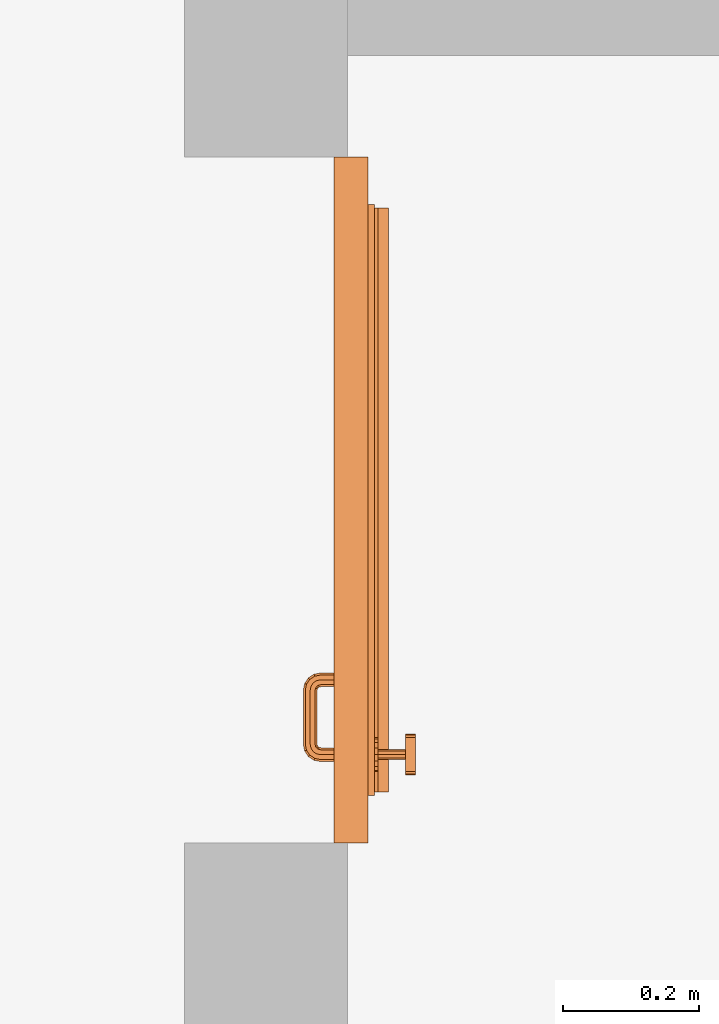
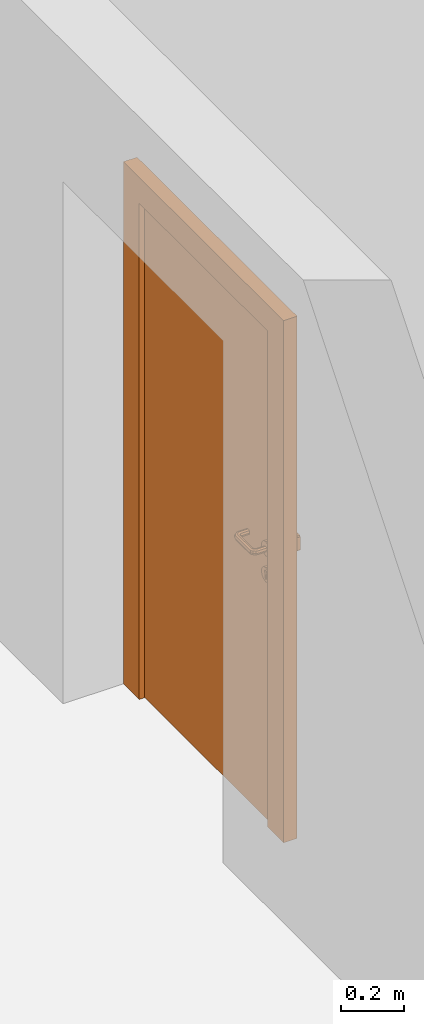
# One storey, part 4 of 5: 1 proxy.
"""IFC4 building model written with IfcOpenShell, lengths in metres."""

from ifc_helpers import new_model, entity, si_unit, converted_unit, derived_unit, direction, frame, origin_with_axes, place, context, subcontext, project, spatial, triangles, type_object, element, save


model = new_model("IFC4")

# Units and contexts
model_context = context("Model", 3, precision=1e-05, world=origin_with_axes(), true_north=direction((-0.526213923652, 0.850352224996)))
body_context = subcontext(model_context, "Body", "Model", "MODEL_VIEW")
ifc_project = project(units=[si_unit("LENGTHUNIT", "METRE"), si_unit("AREAUNIT", "SQUARE_METRE"), si_unit("VOLUMEUNIT", "CUBIC_METRE"), converted_unit("PLANEANGLEUNIT", "DEGREE", entity("IfcPlaneAngleMeasure", 0.0174532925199), si_unit("PLANEANGLEUNIT", "RADIAN"), dimensions=[0, 0, 0, 0, 0, 0, 0]), si_unit("SOLIDANGLEUNIT", "STERADIAN"), converted_unit("TIMEUNIT", "Year", entity("IfcTimeMeasure", 31556926.0), si_unit("TIMEUNIT", "SECOND"), dimensions=[0, 0, 1, 0, 0, 0, 0]), si_unit("MASSUNIT", "GRAM", prefix="KILO"), si_unit("THERMODYNAMICTEMPERATUREUNIT", "DEGREE_CELSIUS"), si_unit("LUMINOUSINTENSITYUNIT", "LUMEN"), si_unit("ENERGYUNIT", "JOULE", prefix="MEGA"), derived_unit("THERMALCONDUCTANCEUNIT", [(si_unit("POWERUNIT", "WATT"), 1), (si_unit("LENGTHUNIT", "METRE"), -1), (si_unit("THERMODYNAMICTEMPERATUREUNIT", "KELVIN"), -1)]), derived_unit("SPECIFICHEATCAPACITYUNIT", [(si_unit("ENERGYUNIT", "JOULE"), 1), (si_unit("MASSUNIT", "GRAM", prefix="KILO"), -1), (si_unit("THERMODYNAMICTEMPERATUREUNIT", "KELVIN"), -1)]), derived_unit("MASSDENSITYUNIT", [(si_unit("MASSUNIT", "GRAM", prefix="KILO"), 1), (si_unit("VOLUMEUNIT", "CUBIC_METRE"), -1)])], contexts=[model_context])

# Site, building, storey
site_placement = place(None, origin_with_axes())
site = spatial("IfcSite", under=ifc_project, at=site_placement, Name="Gelände", CompositionType="ELEMENT")
building_placement = place(site_placement, origin_with_axes())
building = spatial("IfcBuilding", under=site, at=building_placement, Name="Haus vom Nikolaus", CompositionType="ELEMENT")
storey_placement = place(building_placement, frame((0.0, 0.0, -2.8), z_axis=(0.0, 0.0, 1.0), x_axis=(1.0, 0.0, 0.0)))
storey = spatial("IfcBuildingStorey", under=building, at=storey_placement, Name="-1. Geschoss", CompositionType="ELEMENT", Elevation=-2.8)

# Proxy
building_element_proxy_type = type_object("IfcBuildingElementProxyType", Name="Eingangstür 01 22", PredefinedType="NOTDEFINED")
proxy_placement = place(storey_placement, frame((11.2399975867, 3.43733205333, 0.0), z_axis=(0.0, 0.0, 1.0), x_axis=(0.0, -1.0, 0.0)))
element("IfcBuildingElementProxy", 1, at=proxy_placement, inside=storey, type_object=building_element_proxy_type, Name="Tür-002", PredefinedType="NOTDEFINED", context=body_context, shape_type="Tessellation", body=[
    triangles([(0.0, 0.0, 2.01), (0.0, -0.02, 0.0), (0.0, -0.02, 2.01), (0.0, 0.0, 0.0), (0.1, -0.02, 1.91), (0.3749, -0.02, 1.91), (0.1, -0.02, 0.0), (0.5049, -0.02, 1.91), (1.01, -0.02, 2.01), (0.91, -0.02, 1.91), (1.01, -0.02, 0.0), (0.91, -0.02, 0.0), (1.01, 0.0, 2.01), (0.1, 0.0, 1.91), (0.1, 0.0, 0.0), (1.01, 0.0, 0.0), (0.91, 0.0, 1.91), (0.91, 0.0, 0.0), (0.5049, 0.0, 1.91), (0.3749, 0.0, 1.91)], [[1, 2, 3], [1, 4, 2], [3, 2, 5], [6, 3, 5], [5, 2, 7], [8, 3, 6], [3, 8, 9], [9, 8, 10], [11, 9, 10], [11, 10, 12], [13, 3, 9], [13, 1, 3], [14, 15, 4], [16, 17, 13], [17, 16, 18], [13, 19, 1], [19, 13, 17], [20, 1, 19], [14, 1, 20], [1, 14, 4], [4, 7, 2], [4, 15, 7], [15, 5, 7], [15, 14, 5], [20, 5, 14], [5, 20, 6], [20, 8, 6], [20, 19, 8], [19, 10, 8], [19, 17, 10], [17, 12, 10], [17, 18, 12], [18, 11, 12], [18, 16, 11], [16, 9, 11], [16, 13, 9]], closed=True),
    triangles([(0.0, 0.03, 2.01), (0.0, 0.0, 0.0), (0.0, 0.0, 2.01), (0.0, 0.03, 0.0), (0.07, 0.0, 1.94), (0.4049, 0.0, 1.94), (0.07, 0.0, 0.0), (0.4749, 0.0, 1.94), (1.01, 0.0, 2.01), (0.94, 0.0, 1.94), (1.01, 0.0, 0.0), (0.94, 0.0, 0.0), (1.01, 0.03, 2.01), (0.07, 0.03, 1.94), (0.07, 0.03, 0.0), (1.01, 0.03, 0.0), (0.94, 0.03, 1.94), (0.94, 0.03, 0.0), (0.4749, 0.03, 1.94), (0.4049, 0.03, 1.94)], [[1, 2, 3], [1, 4, 2], [3, 2, 5], [6, 3, 5], [5, 2, 7], [8, 3, 6], [3, 8, 9], [9, 8, 10], [11, 9, 10], [11, 10, 12], [13, 3, 9], [13, 1, 3], [14, 15, 4], [16, 17, 13], [17, 16, 18], [13, 19, 1], [19, 13, 17], [20, 1, 19], [14, 1, 20], [1, 14, 4], [4, 7, 2], [4, 15, 7], [15, 5, 7], [15, 14, 5], [14, 6, 5], [14, 20, 6], [20, 8, 6], [20, 19, 8], [19, 10, 8], [19, 17, 10], [17, 12, 10], [17, 18, 12], [18, 11, 12], [18, 16, 11], [16, 9, 11], [16, 13, 9]], closed=True),
    triangles([(0.94, 0.04, 1.94), (0.07, 0.04, 0.0), (0.07, 0.04, 1.94), (0.94, 0.04, 0.0), (0.07, 0.0, 1.94), (0.07, 0.0, 0.0), (0.94, 0.0, 1.94), (0.94, 0.0, 0.0)], [[1, 2, 3], [1, 4, 2], [5, 2, 6], [5, 3, 2], [7, 3, 5], [7, 1, 3], [8, 1, 7], [8, 4, 1], [6, 4, 8], [6, 2, 4], [5, 8, 7], [5, 6, 8]], closed=True),
    triangles([(0.935, 0.06, 0.05), (0.075, 0.06, 0.0), (0.075, 0.06, 0.05), (0.935, 0.06, 0.0), (0.075, 0.04, 0.07), (0.075, 0.045, 0.07), (0.075, 0.04, 0.0), (0.935, 0.045, 0.07), (0.935, 0.04, 0.0), (0.935, 0.04, 0.07)], [[1, 2, 3], [1, 4, 2], [3, 5, 6], [7, 3, 2], [5, 3, 7], [8, 3, 6], [8, 1, 3], [9, 1, 10], [10, 1, 8], [1, 9, 4], [4, 7, 2], [4, 9, 7], [9, 5, 7], [9, 10, 5], [10, 6, 5], [10, 8, 6]], closed=True),
    triangles([(0.88, -0.0099, 1.077), (0.8935, -0.01, 1.0733826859), (0.8935, -0.0099, 1.0733826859), (0.88, -0.01, 1.077), (0.903382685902, -0.01, 1.0635), (0.903382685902, -0.0099, 1.0635), (0.88, -9.99999999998e-05, 1.077), (0.8935, -9.99999999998e-05, 1.0733826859), (0.8665, -0.0099, 1.0733826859), (0.8665, -0.01, 1.0733826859), (0.856617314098, -0.01, 1.0365), (0.8935, -0.01, 1.0266173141), (0.856617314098, -0.01, 1.0635), (0.853, -0.01, 1.05), (0.88, -0.01, 1.023), (0.903382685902, -0.01, 1.0365), (0.8665, -0.01, 1.0266173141), (0.907, -0.01, 1.05), (0.907, -0.0099, 1.05), (0.903382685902, -9.99999999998e-05, 1.0635), (0.88, 0.0, 1.077), (0.8935, 0.0, 1.0733826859), (0.8665, -9.99999999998e-05, 1.0733826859), (0.856617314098, -0.0099, 1.0635), (0.853, -0.0099, 1.05), (0.856617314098, -0.0099, 1.0365), (0.8665, -0.0099, 1.0266173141), (0.88, -0.0099, 1.023), (0.8935, -0.0099, 1.0266173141), (0.903382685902, -0.0099, 1.0365), (0.907, -9.99999999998e-05, 1.05), (0.903382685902, 0.0, 1.0635), (0.856617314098, 0.0, 1.0365), (0.903382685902, 0.0, 1.0365), (0.88, 0.0, 1.023), (0.907, 0.0, 1.05), (0.8665, 0.0, 1.0733826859), (0.856617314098, 0.0, 1.0635), (0.8665, 0.0, 1.0266173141), (0.8935, 0.0, 1.0266173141), (0.853, 0.0, 1.05), (0.856617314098, -9.99999999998e-05, 1.0635), (0.853, -9.99999999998e-05, 1.05), (0.856617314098, -9.99999999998e-05, 1.0365), (0.8665, -9.99999999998e-05, 1.0266173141), (0.88, -9.99999999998e-05, 1.023), (0.8935, -9.99999999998e-05, 1.0266173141), (0.903382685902, -9.99999999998e-05, 1.0365)], [[1, 2, 3], [1, 4, 2], [3, 5, 6], [3, 2, 5], [7, 3, 8], [7, 1, 3], [9, 4, 1], [9, 10, 4], [5, 11, 12], [11, 13, 14], [5, 13, 11], [12, 11, 15], [5, 12, 16], [15, 11, 17], [13, 5, 10], [5, 16, 18], [2, 4, 5], [10, 5, 4], [6, 18, 19], [6, 5, 18], [8, 6, 20], [8, 3, 6], [21, 8, 22], [21, 7, 8], [23, 1, 7], [23, 9, 1], [24, 10, 9], [24, 13, 10], [25, 13, 24], [25, 14, 13], [26, 14, 25], [26, 11, 14], [27, 11, 26], [27, 17, 11], [28, 17, 27], [28, 15, 17], [29, 15, 28], [29, 12, 15], [30, 12, 29], [30, 16, 12], [19, 16, 30], [19, 18, 16], [20, 19, 31], [20, 6, 19], [22, 20, 32], [22, 8, 20], [33, 34, 35], [34, 32, 36], [37, 22, 32], [37, 34, 38], [33, 35, 39], [35, 34, 40], [38, 34, 33], [38, 33, 41], [22, 37, 21], [34, 37, 32], [37, 7, 21], [37, 23, 7], [24, 23, 42], [23, 24, 9], [43, 24, 42], [43, 25, 24], [44, 25, 43], [44, 26, 25], [45, 26, 44], [45, 27, 26], [46, 27, 45], [46, 28, 27], [47, 28, 46], [47, 29, 28], [30, 47, 48], [47, 30, 29], [31, 30, 48], [31, 19, 30], [32, 31, 36], [32, 20, 31], [36, 48, 34], [36, 31, 48], [34, 47, 40], [34, 48, 47], [40, 46, 35], [40, 47, 46], [35, 45, 39], [35, 46, 45], [39, 44, 33], [39, 45, 44], [33, 43, 41], [33, 44, 43], [41, 42, 38], [41, 43, 42], [38, 23, 37], [38, 42, 23]], closed=True),
    triangles([(0.875, -0.01, 0.9544), (0.872532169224, -0.01, 0.959692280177), (0.875, -0.01, 0.952886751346), (0.856703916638, -0.01, 0.96345), (0.873279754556, -0.01, 0.961639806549), (0.86655, -0.01, 0.973296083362), (0.874624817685, -0.009, 0.965143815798), (0.874624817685, -0.01, 0.965143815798), (0.873279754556, -0.009, 0.961639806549), (0.872532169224, -0.009, 0.959692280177), (0.88, -0.01, 0.9769), (0.88, -0.01, 0.967425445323), (0.856617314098, -0.01, 0.9635), (0.8665, -0.01, 0.973382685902), (0.8531, -0.01, 0.95), (0.875, -0.01, 0.95), (0.875, -0.009, 0.95), (0.875, -0.009, 0.947113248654), (0.875, -0.009, 0.952886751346), (0.875, -0.01, 0.947113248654), (0.875, -0.009, 0.941339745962), (0.875, -0.01, 0.941339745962), (0.875, -0.009, 0.9375), (0.875, -0.01, 0.9375), (0.875, -0.009, 0.9544), (0.857569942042, -0.009, 0.96295), (0.86705, -0.009, 0.972430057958), (0.88, -0.009, 0.9759), (0.88, -0.009, 0.967425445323), (0.885375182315, -0.01, 0.965143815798), (0.89345, -0.01, 0.973296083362), (0.886720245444, -0.01, 0.961639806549), (0.88, -0.01, 0.977), (0.853, -0.01, 0.95), (0.856617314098, -0.0099, 0.9635), (0.8665, -0.0099, 0.973382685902), (0.856703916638, -0.01, 0.93655), (0.86655, -0.01, 0.926703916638), (0.876464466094, -0.01, 0.933964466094), (0.88, -0.01, 0.9231), (0.88, -0.01, 0.9325), (0.876464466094, -0.009, 0.933964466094), (0.86705, -0.009, 0.927569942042), (0.88, -0.009, 0.9241), (0.88, -0.009, 0.9325), (0.857569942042, -0.009, 0.93705), (0.8541, -0.009, 0.95), (0.857483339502, -0.009, 0.963), (0.867, -0.009, 0.972516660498), (0.88, -0.009, 0.976), (0.89295, -0.009, 0.972430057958), (0.886720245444, -0.009, 0.961639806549), (0.885375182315, -0.009, 0.965143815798), (0.887467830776, -0.01, 0.959692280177), (0.887467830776, -0.009, 0.959692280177), (0.903296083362, -0.01, 0.96345), (0.885, -0.01, 0.952886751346), (0.885, -0.01, 0.9544), (0.8935, -0.01, 0.973382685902), (0.88, -0.0099, 0.977), (0.856617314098, -0.01, 0.9365), (0.853, -0.0099, 0.95), (0.856617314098, -9.99999999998e-05, 0.9635), (0.8665, -9.99999999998e-05, 0.973382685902), (0.8665, -0.01, 0.926617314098), (0.88, -0.01, 0.923), (0.883535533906, -0.01, 0.933964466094), (0.89345, -0.01, 0.926703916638), (0.885, -0.01, 0.9375), (0.885, -0.01, 0.941339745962), (0.88, -0.009, 0.924), (0.867, -0.009, 0.927483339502), (0.885, -0.009, 0.941339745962), (0.89295, -0.009, 0.927569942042), (0.885, -0.009, 0.9375), (0.883535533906, -0.009, 0.933964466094), (0.857483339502, -0.009, 0.937), (0.854, -0.009, 0.95), (0.867, -0.0089, 0.972516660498), (0.857483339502, -0.0089, 0.963), (0.88, -0.0089, 0.976), (0.893, -0.009, 0.972516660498), (0.885, -0.009, 0.9544), (0.885, -0.009, 0.952886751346), (0.902430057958, -0.009, 0.96295), (0.885, -0.01, 0.95), (0.885, -0.009, 0.95), (0.885, -0.01, 0.947113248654), (0.885, -0.009, 0.947113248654), (0.9069, -0.01, 0.95), (0.903382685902, -0.01, 0.9635), (0.8935, -0.0099, 0.973382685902), (0.88, -9.99999999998e-05, 0.977), (0.856617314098, -0.0099, 0.9365), (0.853, -9.99999999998e-05, 0.95), (0.856617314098, 0.0, 0.9635), (0.8665, 0.0, 0.973382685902), (0.8665, -0.0099, 0.926617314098), (0.8935, -0.01, 0.926617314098), (0.88, -0.0099, 0.923), (0.903296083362, -0.01, 0.93655), (0.893, -0.009, 0.927483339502), (0.867, -0.0089, 0.927483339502), (0.88, -0.0089, 0.924), (0.902430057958, -0.009, 0.93705), (0.857483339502, -0.0089, 0.937), (0.854, -0.0089, 0.95), (0.867, -9.99999999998e-05, 0.972516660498), (0.857483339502, -9.99999999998e-05, 0.963), (0.88, -9.99999999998e-05, 0.976), (0.893, -0.0089, 0.972516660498), (0.902516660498, -0.009, 0.963), (0.9059, -0.009, 0.95), (0.907, -0.01, 0.95), (0.903382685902, -0.0099, 0.9635), (0.8935, -9.99999999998e-05, 0.973382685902), (0.88, 0.0, 0.977), (0.856617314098, -9.99999999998e-05, 0.9365), (0.853, 0.0, 0.95), (0.86655, 0.0, 0.973296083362), (0.856703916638, 0.0, 0.96345), (0.8665, -9.99999999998e-05, 0.926617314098), (0.903382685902, -0.01, 0.9365), (0.8935, -0.0099, 0.926617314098), (0.88, -9.99999999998e-05, 0.923), (0.902516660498, -0.009, 0.937), (0.893, -0.0089, 0.927483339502), (0.867, -9.99999999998e-05, 0.927483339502), (0.88, -9.99999999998e-05, 0.924), (0.857483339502, -9.99999999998e-05, 0.937), (0.854, -9.99999999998e-05, 0.95), (0.867, 0.0, 0.972516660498), (0.857483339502, 0.0, 0.963), (0.88, 0.0, 0.976), (0.893, -9.99999999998e-05, 0.972516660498), (0.902516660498, -0.0089, 0.963), (0.906, -0.009, 0.95), (0.907, -0.0099, 0.95), (0.903382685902, -9.99999999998e-05, 0.9635), (0.8935, 0.0, 0.973382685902), (0.88, 0.0, 0.9769), (0.856617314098, 0.0, 0.9365), (0.8531, 0.0, 0.95), (0.857396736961, 0.0, 0.96305), (0.86695, 0.0, 0.972603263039), (0.8665, 0.0, 0.926617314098), (0.903382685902, -0.0099, 0.9365), (0.8935, -9.99999999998e-05, 0.926617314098), (0.88, 0.0, 0.923), (0.902516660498, -0.0089, 0.937), (0.893, -9.99999999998e-05, 0.927483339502), (0.867, 0.0, 0.927483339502), (0.88, 0.0, 0.924), (0.857483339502, 0.0, 0.937), (0.854, 0.0, 0.95), (0.88, 0.0, 0.9761), (0.893, 0.0, 0.972516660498), (0.902516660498, -9.99999999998e-05, 0.963), (0.906, -0.0089, 0.95), (0.907, -9.99999999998e-05, 0.95), (0.903382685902, 0.0, 0.9635), (0.89345, 0.0, 0.973296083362), (0.856703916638, 0.0, 0.93655), (0.8539, 0.0, 0.95), (0.86655, 0.0, 0.926703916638), (0.903382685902, -9.99999999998e-05, 0.9365), (0.8935, 0.0, 0.926617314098), (0.88, 0.0, 0.9231), (0.902516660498, -9.99999999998e-05, 0.937), (0.893, 0.0, 0.927483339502), (0.88, 0.0, 0.9239), (0.86695, 0.0, 0.927396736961), (0.857396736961, 0.0, 0.93695), (0.89305, 0.0, 0.972603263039), (0.902516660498, 0.0, 0.963), (0.906, -9.99999999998e-05, 0.95), (0.907, 0.0, 0.95), (0.903296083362, 0.0, 0.96345), (0.903382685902, 0.0, 0.9365), (0.89345, 0.0, 0.926703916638), (0.902516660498, 0.0, 0.937), (0.89305, 0.0, 0.927396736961), (0.902603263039, 0.0, 0.96305), (0.906, 0.0, 0.95), (0.9069, 0.0, 0.95), (0.903296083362, 0.0, 0.93655), (0.902603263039, 0.0, 0.93695), (0.9061, 0.0, 0.95)], [[1, 2, 3], [4, 5, 6], [5, 4, 2], [3, 2, 4], [5, 7, 8], [9, 2, 10], [7, 5, 9], [9, 5, 2], [6, 5, 8], [11, 6, 8], [11, 8, 12], [6, 13, 4], [6, 14, 13], [15, 3, 4], [3, 15, 16], [17, 16, 18], [19, 3, 17], [18, 20, 21], [21, 22, 23], [23, 22, 24], [20, 18, 16], [22, 21, 20], [16, 17, 3], [3, 19, 1], [25, 1, 19], [10, 1, 25], [10, 2, 1], [26, 9, 10], [19, 26, 10], [19, 10, 25], [9, 26, 27], [28, 29, 7], [28, 7, 27], [27, 7, 9], [29, 8, 7], [29, 12, 8], [11, 12, 30], [31, 30, 32], [11, 30, 31], [11, 14, 6], [11, 33, 14], [4, 34, 15], [4, 13, 34], [14, 35, 13], [14, 36, 35], [37, 20, 15], [15, 20, 16], [38, 22, 37], [37, 22, 20], [22, 38, 24], [39, 40, 41], [40, 39, 38], [39, 24, 38], [42, 24, 39], [42, 23, 24], [42, 43, 23], [21, 23, 43], [43, 42, 44], [42, 45, 44], [46, 21, 43], [21, 46, 18], [47, 18, 46], [18, 47, 17], [26, 19, 47], [47, 19, 17], [48, 49, 26], [27, 26, 49], [28, 49, 50], [49, 28, 27], [51, 52, 53], [28, 51, 53], [28, 53, 29], [53, 12, 29], [53, 30, 12], [32, 30, 52], [54, 52, 55], [52, 30, 53], [32, 52, 54], [56, 32, 54], [57, 56, 54], [57, 54, 58], [32, 56, 31], [59, 11, 31], [11, 59, 33], [33, 36, 14], [33, 60, 36], [15, 61, 37], [15, 34, 61], [13, 62, 34], [13, 35, 62], [36, 63, 35], [36, 64, 63], [37, 65, 38], [37, 61, 65], [38, 66, 40], [38, 65, 66], [67, 68, 69], [70, 69, 68], [68, 67, 40], [67, 41, 40], [45, 39, 41], [45, 42, 39], [71, 72, 44], [43, 44, 72], [73, 74, 75], [76, 44, 45], [44, 76, 74], [76, 75, 74], [72, 77, 43], [46, 43, 77], [77, 78, 46], [47, 46, 78], [78, 48, 47], [26, 47, 48], [79, 48, 80], [79, 49, 48], [81, 49, 79], [81, 50, 49], [50, 82, 28], [51, 28, 82], [83, 55, 84], [85, 52, 51], [52, 85, 55], [84, 55, 85], [83, 54, 55], [83, 58, 54], [86, 87, 88], [57, 84, 86], [88, 89, 70], [70, 73, 69], [69, 73, 75], [89, 88, 87], [73, 70, 89], [87, 86, 84], [84, 57, 83], [58, 83, 57], [56, 57, 90], [90, 57, 86], [91, 31, 56], [31, 91, 59], [59, 60, 33], [59, 92, 60], [60, 64, 36], [60, 93, 64], [34, 94, 61], [34, 62, 94], [35, 95, 62], [35, 63, 95], [64, 96, 63], [64, 97, 96], [61, 98, 65], [61, 94, 98], [40, 99, 68], [40, 66, 99], [65, 100, 66], [65, 98, 100], [101, 70, 68], [70, 101, 88], [75, 67, 69], [75, 76, 67], [76, 41, 67], [76, 45, 41], [102, 71, 74], [44, 74, 71], [103, 71, 104], [103, 72, 71], [74, 73, 105], [105, 73, 89], [106, 72, 103], [106, 77, 72], [107, 77, 106], [107, 78, 77], [80, 78, 107], [80, 48, 78], [108, 80, 109], [108, 79, 80], [110, 79, 108], [110, 81, 79], [111, 50, 81], [111, 82, 50], [85, 82, 112], [82, 85, 51], [113, 84, 85], [84, 113, 87], [105, 89, 113], [113, 89, 87], [90, 88, 101], [88, 90, 86], [114, 56, 90], [56, 114, 91], [91, 92, 59], [91, 115, 92], [92, 93, 60], [92, 116, 93], [93, 97, 64], [93, 117, 97], [62, 118, 94], [62, 95, 118], [63, 119, 95], [63, 96, 119], [120, 96, 97], [96, 120, 121], [94, 122, 98], [94, 118, 122], [99, 101, 68], [101, 99, 123], [66, 124, 99], [66, 100, 124], [98, 125, 100], [98, 122, 125], [74, 126, 102], [126, 74, 105], [104, 102, 127], [104, 71, 102], [128, 104, 129], [128, 103, 104], [130, 103, 128], [130, 106, 103], [131, 106, 130], [131, 107, 106], [80, 131, 109], [131, 80, 107], [132, 109, 133], [132, 108, 109], [134, 108, 132], [134, 110, 108], [135, 81, 110], [135, 111, 81], [136, 82, 111], [136, 112, 82], [113, 112, 137], [112, 113, 85], [105, 137, 126], [137, 105, 113], [123, 90, 101], [90, 123, 114], [114, 115, 91], [114, 138, 115], [115, 116, 92], [115, 139, 116], [116, 117, 93], [116, 140, 117], [141, 97, 117], [97, 141, 120], [95, 142, 118], [95, 119, 142], [121, 119, 96], [119, 121, 143], [121, 120, 144], [145, 144, 120], [118, 146, 122], [118, 142, 146], [99, 147, 123], [99, 124, 147], [100, 148, 124], [100, 125, 148], [122, 149, 125], [122, 146, 149], [127, 126, 150], [127, 102, 126], [129, 127, 151], [129, 104, 127], [152, 129, 153], [152, 128, 129], [154, 128, 152], [154, 130, 128], [155, 130, 154], [155, 131, 130], [133, 131, 155], [133, 109, 131], [144, 145, 133], [132, 133, 145], [145, 156, 132], [134, 132, 156], [157, 110, 134], [157, 135, 110], [136, 135, 158], [135, 136, 111], [159, 112, 136], [159, 137, 112], [150, 137, 159], [150, 126, 137], [123, 138, 114], [123, 147, 138], [138, 139, 115], [138, 160, 139], [139, 140, 116], [139, 161, 140], [117, 140, 141], [162, 141, 140], [120, 141, 145], [156, 145, 141], [143, 142, 119], [142, 143, 163], [144, 143, 121], [143, 144, 164], [163, 146, 142], [146, 163, 165], [124, 166, 147], [124, 148, 166], [125, 167, 148], [125, 149, 167], [165, 149, 146], [149, 165, 168], [151, 150, 169], [151, 127, 150], [153, 151, 170], [153, 129, 151], [171, 172, 153], [152, 153, 172], [172, 173, 152], [154, 152, 173], [173, 164, 154], [155, 154, 164], [164, 144, 155], [133, 155, 144], [156, 174, 134], [157, 134, 174], [175, 135, 157], [175, 158, 135], [176, 136, 158], [176, 159, 136], [150, 176, 169], [176, 150, 159], [147, 160, 138], [147, 166, 160], [160, 161, 139], [160, 177, 161], [140, 161, 162], [178, 162, 161], [174, 141, 162], [141, 174, 156], [163, 143, 173], [164, 173, 143], [165, 163, 172], [173, 172, 163], [148, 179, 166], [148, 167, 179], [168, 167, 149], [167, 168, 180], [168, 165, 171], [172, 171, 165], [170, 169, 181], [170, 151, 169], [153, 182, 171], [182, 153, 170], [175, 174, 183], [174, 175, 157], [184, 158, 175], [184, 176, 158], [181, 176, 184], [181, 169, 176], [166, 177, 160], [166, 179, 177], [161, 177, 178], [185, 178, 177], [183, 162, 178], [162, 183, 174], [179, 167, 186], [180, 186, 167], [180, 168, 182], [171, 182, 168], [187, 182, 181], [170, 181, 182], [184, 183, 188], [183, 184, 175], [181, 188, 187], [188, 181, 184], [177, 179, 185], [186, 185, 179], [178, 185, 183], [188, 183, 185], [186, 180, 187], [182, 187, 180], [187, 185, 186], [185, 187, 188]], closed=True),
    triangles([(0.887071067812, -0.040696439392, 1.04292893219), (0.89, -0.01, 1.05), (0.89, -0.0409849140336, 1.05), (0.887071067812, -0.01, 1.04292893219), (0.887071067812, -0.040696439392, 1.05707106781), (0.887071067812, -0.01, 1.05707106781), (0.885518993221, -0.0484992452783, 1.04292893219), (0.888277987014, -0.0496420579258, 1.05), (0.88, -0.04, 1.04), (0.88, -0.01, 1.04), (0.88, -0.04, 1.06), (0.88, -0.01, 1.06), (0.885518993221, -0.0484992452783, 1.05707106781), (0.882816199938, -0.0578161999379, 1.05), (0.880704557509, -0.0557045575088, 1.04292893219), (0.878858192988, -0.0457402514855, 1.04), (0.872928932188, -0.039303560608, 1.04292893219), (0.872928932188, -0.01, 1.04292893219), (0.872928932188, -0.039303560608, 1.05707106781), (0.872928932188, -0.01, 1.05707106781), (0.878858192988, -0.0457402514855, 1.06), (0.880704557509, -0.0557045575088, 1.05707106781), (0.874642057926, -0.0632779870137, 1.05), (0.873499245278, -0.0605189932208, 1.04292893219), (0.875606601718, -0.0506066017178, 1.04), (0.872197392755, -0.0429812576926, 1.04292893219), (0.87, -0.0390150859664, 1.05), (0.87, -0.01, 1.05), (0.872197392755, -0.0429812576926, 1.05707106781), (0.875606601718, -0.0506066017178, 1.06), (0.873499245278, -0.0605189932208, 1.05707106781), (0.865984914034, -0.065, 1.05), (0.865696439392, -0.0620710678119, 1.04292893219), (0.870740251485, -0.0538581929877, 1.04), (0.870508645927, -0.0455086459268, 1.04292893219), (0.869438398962, -0.0418384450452, 1.05), (0.870508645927, -0.0455086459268, 1.05707106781), (0.870740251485, -0.0538581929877, 1.06), (0.865696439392, -0.0620710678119, 1.05707106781), (0.784303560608, -0.0620710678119, 1.04292893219), (0.784015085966, -0.065, 1.05), (0.865, -0.055, 1.04), (0.867981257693, -0.0471973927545, 1.04292893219), (0.868397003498, -0.0433970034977, 1.05), (0.867981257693, -0.0471973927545, 1.05707106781), (0.865, -0.055, 1.06), (0.784303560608, -0.0620710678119, 1.05707106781), (0.776500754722, -0.0605189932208, 1.04292893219), (0.775357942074, -0.0632779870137, 1.05), (0.785, -0.055, 1.04), (0.864303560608, -0.0479289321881, 1.04292893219), (0.866838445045, -0.0444383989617, 1.05), (0.864303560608, -0.0479289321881, 1.05707106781), (0.785, -0.055, 1.06), (0.776500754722, -0.0605189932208, 1.05707106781), (0.769295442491, -0.0557045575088, 1.04292893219), (0.767183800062, -0.0578161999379, 1.05), (0.779259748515, -0.0538581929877, 1.04), (0.785696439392, -0.0479289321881, 1.04292893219), (0.864015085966, -0.045, 1.05), (0.785696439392, -0.0479289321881, 1.05707106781), (0.779259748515, -0.0538581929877, 1.06), (0.769295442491, -0.0557045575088, 1.05707106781), (0.764481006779, -0.0484992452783, 1.04292893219), (0.761722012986, -0.0496420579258, 1.05), (0.774393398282, -0.0506066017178, 1.04), (0.782018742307, -0.0471973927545, 1.04292893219), (0.785984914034, -0.045, 1.05), (0.782018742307, -0.0471973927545, 1.05707106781), (0.774393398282, -0.0506066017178, 1.06), (0.764481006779, -0.0484992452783, 1.05707106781), (0.76, -0.0409849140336, 1.05), (0.762928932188, -0.040696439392, 1.04292893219), (0.771141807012, -0.0457402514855, 1.04), (0.779491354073, -0.0455086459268, 1.04292893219), (0.783161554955, -0.0444383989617, 1.05), (0.779491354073, -0.0455086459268, 1.05707106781), (0.771141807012, -0.0457402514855, 1.06), (0.762928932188, -0.040696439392, 1.05707106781), (0.76, -0.01, 1.05), (0.762928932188, -0.01, 1.04292893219), (0.77, -0.04, 1.04), (0.777802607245, -0.0429812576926, 1.04292893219), (0.781602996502, -0.0433970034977, 1.05), (0.777802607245, -0.0429812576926, 1.05707106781), (0.77, -0.04, 1.06), (0.762928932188, -0.01, 1.05707106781), (0.77, -0.01, 1.04), (0.78, -0.01, 1.05), (0.777071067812, -0.01, 1.04292893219), (0.77, -0.01, 1.06), (0.777071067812, -0.01, 1.05707106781), (0.777071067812, -0.039303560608, 1.04292893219), (0.780561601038, -0.0418384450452, 1.05), (0.777071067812, -0.039303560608, 1.05707106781), (0.78, -0.0390150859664, 1.05)], [[1, 2, 3], [1, 4, 2], [2, 5, 3], [5, 2, 6], [7, 3, 8], [7, 1, 3], [9, 4, 1], [9, 10, 4], [6, 11, 5], [11, 6, 12], [3, 13, 8], [13, 3, 5], [7, 14, 15], [14, 7, 8], [16, 1, 7], [16, 9, 1], [17, 10, 9], [17, 18, 10], [12, 19, 11], [19, 12, 20], [5, 21, 13], [21, 5, 11], [14, 13, 22], [14, 8, 13], [15, 23, 24], [23, 15, 14], [25, 7, 15], [25, 16, 7], [26, 9, 16], [26, 17, 9], [27, 18, 17], [27, 28, 18], [20, 27, 19], [27, 20, 28], [11, 29, 21], [29, 11, 19], [13, 30, 22], [30, 13, 21], [23, 22, 31], [23, 14, 22], [24, 32, 33], [32, 24, 23], [25, 24, 34], [24, 25, 15], [35, 16, 25], [35, 26, 16], [36, 17, 26], [36, 27, 17], [19, 36, 29], [36, 19, 27], [37, 21, 29], [21, 37, 30], [31, 30, 38], [31, 22, 30], [32, 31, 39], [32, 23, 31], [40, 32, 41], [40, 33, 32], [34, 33, 42], [33, 34, 24], [35, 34, 43], [34, 35, 25], [36, 35, 44], [35, 36, 26], [37, 36, 44], [37, 29, 36], [38, 30, 37], [38, 37, 45], [39, 38, 46], [39, 31, 38], [41, 39, 47], [41, 32, 39], [48, 41, 49], [48, 40, 41], [50, 33, 40], [50, 42, 33], [43, 42, 51], [42, 43, 34], [44, 43, 52], [43, 44, 35], [45, 44, 52], [45, 37, 44], [46, 38, 45], [46, 45, 53], [47, 46, 54], [47, 39, 46], [41, 55, 49], [55, 41, 47], [56, 49, 57], [56, 48, 49], [58, 40, 48], [58, 50, 40], [59, 42, 50], [59, 51, 42], [52, 51, 60], [51, 52, 43], [53, 52, 60], [53, 45, 52], [54, 53, 61], [54, 46, 53], [47, 62, 55], [62, 47, 54], [49, 63, 57], [63, 49, 55], [64, 57, 65], [64, 56, 57], [66, 48, 56], [66, 58, 48], [67, 50, 58], [67, 59, 50], [68, 51, 59], [68, 60, 51], [53, 68, 61], [68, 53, 60], [54, 69, 62], [69, 54, 61], [55, 70, 63], [70, 55, 62], [57, 71, 65], [71, 57, 63], [64, 72, 73], [72, 64, 65], [66, 64, 74], [64, 66, 56], [67, 66, 75], [66, 67, 58], [76, 59, 67], [76, 68, 59], [61, 76, 69], [76, 61, 68], [70, 62, 69], [70, 69, 77], [71, 70, 78], [71, 63, 70], [72, 71, 79], [72, 65, 71], [73, 80, 81], [80, 73, 72], [74, 73, 82], [73, 74, 64], [75, 74, 83], [74, 75, 66], [84, 67, 75], [84, 76, 67], [69, 84, 77], [84, 69, 76], [78, 70, 77], [78, 77, 85], [79, 78, 86], [79, 71, 78], [80, 79, 87], [80, 72, 79], [88, 89, 90], [89, 91, 92], [91, 80, 87], [91, 88, 80], [88, 91, 89], [88, 81, 80], [82, 81, 88], [81, 82, 73], [83, 82, 93], [82, 83, 74], [94, 75, 83], [94, 84, 75], [77, 94, 85], [94, 77, 84], [86, 78, 85], [86, 85, 95], [87, 86, 91], [87, 79, 86], [91, 95, 92], [91, 86, 95], [92, 96, 89], [92, 95, 96], [96, 90, 89], [90, 96, 93], [93, 88, 90], [88, 93, 82], [94, 93, 96], [93, 94, 83], [95, 94, 96], [95, 85, 94]], closed=False),
    triangles([(0.8725, 0.045, 1.05), (0.88, 0.045, 1.0575), (0.874696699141, 0.045, 1.05530330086), (0.88, 0.045, 1.0425), (0.8875, 0.045, 1.05), (0.885303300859, 0.045, 1.04469669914), (0.885303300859, 0.045, 1.05530330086), (0.874696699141, 0.045, 1.04469669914), (0.874696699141, 0.085, 1.04469669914), (0.88, 0.085, 1.0425), (0.885303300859, 0.085, 1.04469669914), (0.8875, 0.085, 1.05), (0.885303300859, 0.085, 1.05530330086), (0.88, 0.085, 1.0575), (0.874696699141, 0.085, 1.05530330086), (0.8725, 0.085, 1.05)], [[1, 2, 3], [1, 4, 5], [5, 4, 6], [2, 1, 5], [2, 5, 7], [4, 1, 8], [9, 4, 8], [9, 10, 4], [10, 6, 4], [10, 11, 6], [11, 5, 6], [11, 12, 5], [12, 7, 5], [12, 13, 7], [13, 2, 7], [13, 14, 2], [14, 3, 2], [14, 15, 3], [15, 1, 3], [15, 16, 1], [16, 8, 1], [16, 9, 8], [16, 12, 9], [12, 16, 14], [14, 16, 15], [10, 12, 11], [12, 14, 13], [12, 10, 9]], closed=True),
    triangles([(0.903096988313, 0.045, 0.965432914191), (0.905, 0.04, 0.975), (0.903096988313, 0.04, 0.965432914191), (0.905, 0.045, 0.975), (0.856903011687, 0.04, 0.965432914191), (0.855, 0.04, 0.975), (0.88, 0.04, 1.125), (0.89767766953, 0.04, 1.11767766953), (0.889567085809, 0.04, 1.12309698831), (0.856903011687, 0.04, 1.10956708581), (0.86232233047, 0.04, 1.11767766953), (0.903096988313, 0.04, 1.10956708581), (0.870432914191, 0.04, 1.12309698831), (0.905, 0.04, 1.1), (0.855, 0.04, 1.1), (0.88, 0.04, 0.95), (0.86232233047, 0.04, 0.95732233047), (0.870432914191, 0.04, 0.951903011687), (0.89767766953, 0.04, 0.95732233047), (0.889567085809, 0.04, 0.951903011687), (0.89767766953, 0.045, 0.95732233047), (0.855, 0.045, 0.975), (0.856903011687, 0.045, 0.965432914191), (0.88, 0.045, 0.95), (0.889567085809, 0.045, 0.951903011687), (0.86232233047, 0.045, 0.95732233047), (0.870432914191, 0.045, 0.951903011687), (0.88, 0.045, 1.125), (0.856903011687, 0.045, 1.10956708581), (0.870432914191, 0.045, 1.12309698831), (0.855, 0.045, 1.1), (0.86232233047, 0.045, 1.11767766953), (0.903096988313, 0.045, 1.10956708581), (0.889567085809, 0.045, 1.12309698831), (0.89767766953, 0.045, 1.11767766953), (0.905, 0.045, 1.1)], [[1, 2, 3], [1, 4, 2], [5, 2, 6], [7, 8, 9], [10, 7, 11], [8, 7, 12], [11, 7, 13], [7, 10, 12], [12, 10, 14], [15, 14, 10], [6, 2, 15], [14, 15, 2], [16, 5, 17], [3, 5, 16], [16, 17, 18], [19, 16, 20], [3, 16, 19], [5, 3, 2], [21, 3, 19], [21, 1, 3], [22, 4, 23], [24, 21, 25], [23, 21, 24], [21, 23, 1], [26, 24, 27], [23, 24, 26], [1, 23, 4], [28, 29, 30], [31, 4, 22], [30, 29, 32], [33, 29, 28], [34, 33, 28], [33, 34, 35], [29, 33, 31], [36, 31, 33], [31, 36, 4], [4, 14, 2], [4, 36, 14], [33, 14, 36], [14, 33, 12], [33, 8, 12], [33, 35, 8], [35, 9, 8], [35, 34, 9], [34, 7, 9], [34, 28, 7], [28, 13, 7], [28, 30, 13], [30, 11, 13], [30, 32, 11], [32, 10, 11], [32, 29, 10], [29, 15, 10], [29, 31, 15], [31, 6, 15], [31, 22, 6], [22, 5, 6], [22, 23, 5], [23, 17, 5], [23, 26, 17], [26, 18, 17], [26, 27, 18], [27, 16, 18], [27, 24, 16], [24, 20, 16], [24, 25, 20], [21, 20, 25], [20, 21, 19]], closed=True),
    triangles([(0.905, 0.1, 1.07866025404), (0.9, 0.085, 1.08), (0.905, 0.085, 1.07866025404), (0.9, 0.1, 1.08), (0.91, 0.085, 1.03), (0.905, 0.085, 1.02133974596), (0.908660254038, 0.085, 1.025), (0.855, 0.085, 1.07866025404), (0.85, 0.085, 1.07), (0.86, 0.085, 1.08), (0.851339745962, 0.085, 1.075), (0.86, 0.085, 1.02), (0.85, 0.085, 1.03), (0.851339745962, 0.085, 1.025), (0.855, 0.085, 1.02133974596), (0.9, 0.085, 1.02), (0.91, 0.085, 1.07), (0.908660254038, 0.085, 1.075), (0.908660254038, 0.1, 1.075), (0.905, 0.1, 1.02133974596), (0.91, 0.1, 1.03), (0.908660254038, 0.1, 1.025), (0.91, 0.1, 1.07), (0.9, 0.1, 1.02), (0.85, 0.1, 1.07), (0.86, 0.1, 1.02), (0.85, 0.1, 1.03), (0.855, 0.1, 1.02133974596), (0.851339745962, 0.1, 1.025), (0.855, 0.1, 1.07866025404), (0.851339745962, 0.1, 1.075), (0.86, 0.1, 1.08)], [[1, 2, 3], [1, 4, 2], [5, 6, 7], [8, 9, 10], [9, 8, 11], [10, 9, 2], [12, 9, 13], [12, 14, 15], [5, 12, 16], [14, 12, 13], [12, 5, 9], [6, 5, 16], [17, 2, 5], [9, 5, 2], [18, 2, 17], [3, 2, 18], [19, 3, 18], [19, 1, 3], [20, 21, 22], [23, 4, 19], [19, 4, 1], [21, 4, 23], [24, 21, 20], [25, 21, 26], [26, 21, 24], [27, 28, 29], [28, 27, 26], [25, 26, 27], [30, 25, 31], [21, 25, 4], [32, 25, 30], [25, 32, 4], [4, 10, 2], [4, 32, 10], [32, 8, 10], [32, 30, 8], [30, 11, 8], [30, 31, 11], [31, 9, 11], [31, 25, 9], [25, 13, 9], [25, 27, 13], [27, 14, 13], [27, 29, 14], [29, 15, 14], [29, 28, 15], [28, 12, 15], [28, 26, 12], [26, 16, 12], [26, 24, 16], [24, 6, 16], [24, 20, 6], [20, 7, 6], [20, 22, 7], [22, 5, 7], [22, 21, 5], [21, 17, 5], [21, 23, 17], [23, 18, 17], [23, 19, 18]], closed=True),
])

save(model, "model.ifc")
